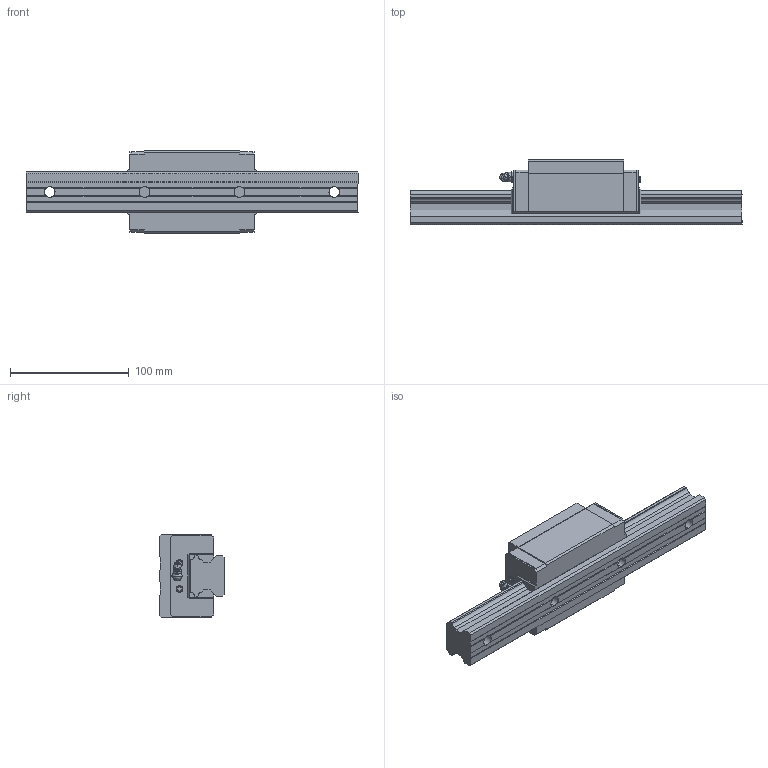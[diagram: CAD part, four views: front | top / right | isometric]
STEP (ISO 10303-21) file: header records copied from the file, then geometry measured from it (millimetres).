
FILE_DESCRIPTION (( 'STEP AP203' ), '1' );
FILE_NAME ('HSV35RSS.STEP', '2016-03-14T13:48:23', ( 'EOS' ), ( '' ), 'SwSTEP 2.0', 'SolidWorks 2016', '' );
FILE_SCHEMA (( 'CONFIG_CONTROL_DESIGN' ));
Length unit declared in the file: millimetre
Products named in the file (4): HSV35RSS; 3; HSV35R; 1
Assembly tree (3 placements, depth 2):
  HSV35RSS
    1
    HSV35R
    3
Bounding box: 280 x 55 x 70 mm (x, y, z)
Volume: 483590.5 mm3; surface area: 78236.8 mm2
Topology: 3 solids, 3 shells, 295 faces, 787 edges, 500 vertices
Faces by surface type: plane 194, cylinder 48, cone 36, bspline 17
Entity records: 9785 total; most frequent: CARTESIAN_POINT 2164, ORIENTED_EDGE 1542, DIRECTION 1448, EDGE_CURVE 771, VECTOR 548, LINE 548, VERTEX_POINT 500, AXIS2_PLACEMENT_3D 450
